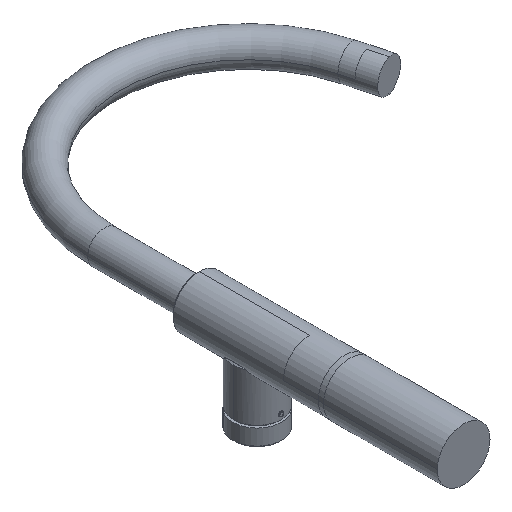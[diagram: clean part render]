
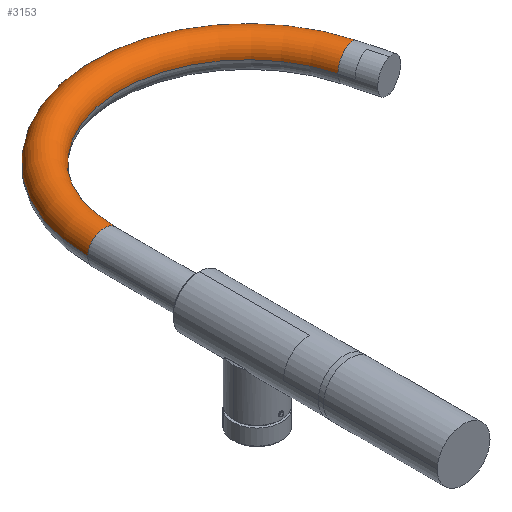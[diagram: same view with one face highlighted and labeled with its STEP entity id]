
A CAD part, isometric view. The second image highlights one B-rep face of the part: STEP entity #3153.
In plain terms, the highlighted toroidal (fillet/blend) face has major radius 124 mm and minor radius 14 mm.
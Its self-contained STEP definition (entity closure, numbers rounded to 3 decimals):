
#306=CARTESIAN_POINT('',(0.,180.25,0.));
#307=DIRECTION('',(0.,-1.,0.));
#308=DIRECTION('',(1.,0.,0.));
#309=AXIS2_PLACEMENT_3D('',#306,#307,#308);
#311=CARTESIAN_POINT('',(243.775,212.344,0.));
#312=DIRECTION('',(0.259,-0.966,0.));
#313=DIRECTION('',(0.966,0.259,0.));
#314=AXIS2_PLACEMENT_3D('',#311,#312,#313);
#316=CARTESIAN_POINT('',(124.,180.25,0.));
#317=DIRECTION('',(0.,0.,1.));
#318=DIRECTION('',(0.966,0.259,0.));
#319=AXIS2_PLACEMENT_3D('',#316,#317,#318);
#331=CARTESIAN_POINT('',(124.,180.25,0.));
#332=DIRECTION('',(0.,0.,1.));
#333=DIRECTION('',(0.966,0.259,0.));
#334=AXIS2_PLACEMENT_3D('',#331,#332,#333);
#2810=CARTESIAN_POINT('',(230.252,208.72,0.));
#2811=CARTESIAN_POINT('',(257.298,215.967,0.));
#2812=VERTEX_POINT('',#2810);
#2813=VERTEX_POINT('',#2811);
#2814=CARTESIAN_POINT('',(-14.,180.25,0.));
#2815=CARTESIAN_POINT('',(14.,180.25,0.));
#2816=VERTEX_POINT('',#2814);
#2817=VERTEX_POINT('',#2815);
#3139=CARTESIAN_POINT('',(124.,180.25,0.));
#3140=DIRECTION('',(0.,0.,-1.));
#3141=DIRECTION('',(1.,0.,0.));
#3142=AXIS2_PLACEMENT_3D('',#3139,#3140,#3141);
#3143=TOROIDAL_SURFACE('',#3142,124.,14.);
#3144=ORIENTED_EDGE('',*,*,#3134,.T.);
#3146=ORIENTED_EDGE('',*,*,#3145,.F.);
#3148=ORIENTED_EDGE('',*,*,#3147,.T.);
#3150=ORIENTED_EDGE('',*,*,#3149,.T.);
#3151=EDGE_LOOP('',(#3144,#3146,#3148,#3150));
#3152=FACE_OUTER_BOUND('',#3151,.F.);
#3153=ADVANCED_FACE('',(#3152),#3143,.T.);
#310=CIRCLE('',#309,14.);
#315=CIRCLE('',#314,14.);
#320=CIRCLE('',#319,110.);
#335=CIRCLE('',#334,138.);
#3134=EDGE_CURVE('',#2817,#2816,#310,.T.);
#3145=EDGE_CURVE('',#2813,#2816,#335,.T.);
#3147=EDGE_CURVE('',#2813,#2812,#315,.T.);
#3149=EDGE_CURVE('',#2812,#2817,#320,.T.);
